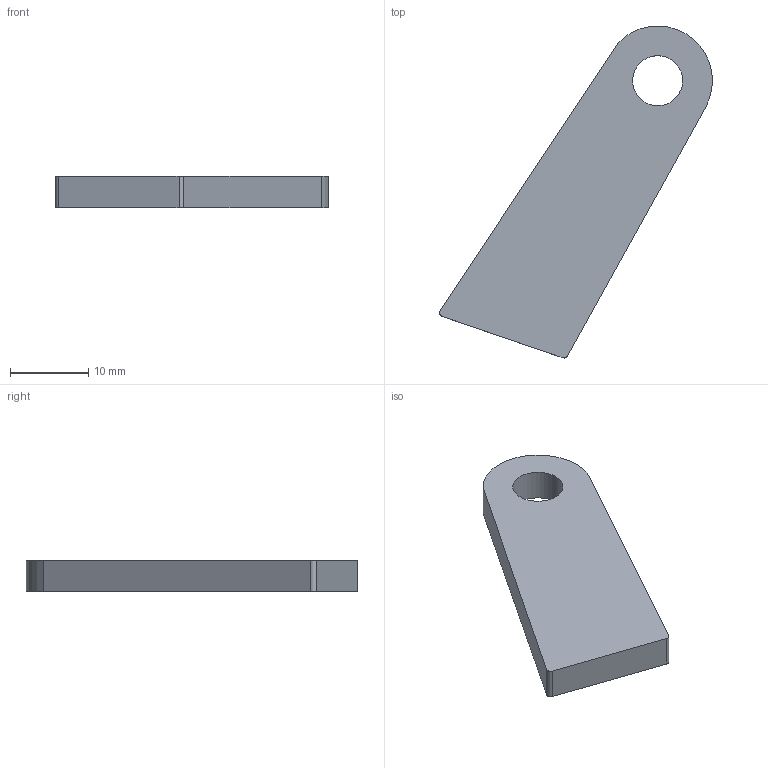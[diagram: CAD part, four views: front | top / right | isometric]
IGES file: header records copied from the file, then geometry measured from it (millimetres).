
Start section: START RECORD GO HERE.
Global section: file name: 20M_RL_RD.igs; native system: IBM CATIA IGES - CATIA Version 5 Release 19 ; preprocessor: CATIA Version 5 Release 19 ; author: alexb; organization: LAPTOP-PR6NE7IP; date: 20191216.213900; units: millimetre
Bounding box: 34.88 x 42.42 x 4 mm (x, y, z)
Surface area: 1814.9 mm2 (no closed solid volume)
Topology: 0 solids, 0 shells, 10 faces, 48 edges, 50 vertices
Faces by surface type: revolution 5, plane 4, extrusion 1
